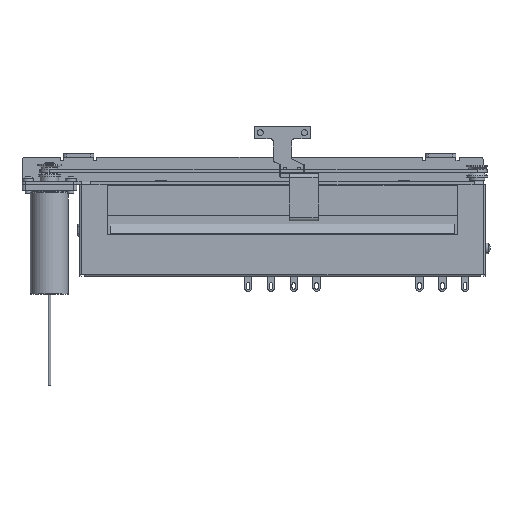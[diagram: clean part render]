
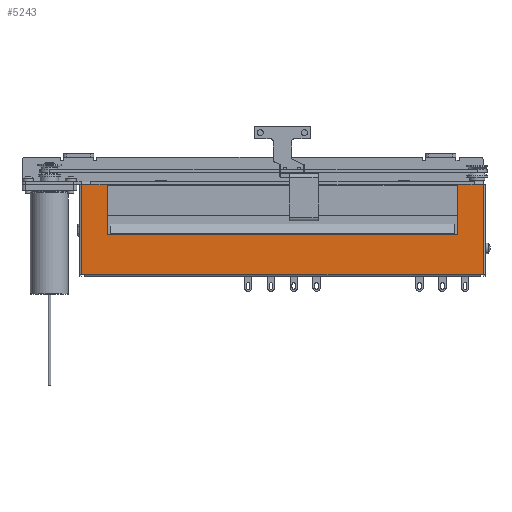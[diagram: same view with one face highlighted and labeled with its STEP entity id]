
A CAD part, front view. The second image highlights one B-rep face of the part: STEP entity #5243.
In plain terms, the highlighted planar face has unit normal (0, -1, 0).
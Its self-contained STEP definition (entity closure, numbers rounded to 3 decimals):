
#2670 = VERTEX_POINT('',#2671);
#2671 = CARTESIAN_POINT('',(57.5,-7.5,-10.));
#2677 = EDGE_CURVE('',#2670,#2678,#2680,.T.);
#2678 = VERTEX_POINT('',#2679);
#2679 = CARTESIAN_POINT('',(66.,-7.5,-10.));
#2680 = LINE('',#2681,#2682);
#2681 = CARTESIAN_POINT('',(-66.,-7.5,-10.));
#2682 = VECTOR('',#2683,1.);
#2683 = DIRECTION('',(1.,0.,0.));
#3475 = VERTEX_POINT('',#3476);
#3476 = CARTESIAN_POINT('',(-66.,-7.5,-10.));
#3485 = EDGE_CURVE('',#3475,#3486,#3488,.T.);
#3486 = VERTEX_POINT('',#3487);
#3487 = CARTESIAN_POINT('',(-57.5,-7.5,-10.));
#3488 = LINE('',#3489,#3490);
#3489 = CARTESIAN_POINT('',(-66.,-7.5,-10.));
#3490 = VECTOR('',#3491,1.);
#3491 = DIRECTION('',(1.,0.,0.));
#5224 = VERTEX_POINT('',#5225);
#5225 = CARTESIAN_POINT('',(57.5,-7.5,-26.6));
#5233 = EDGE_CURVE('',#5224,#2670,#5234,.T.);
#5234 = LINE('',#5235,#5236);
#5235 = CARTESIAN_POINT('',(57.5,-7.5,-33.1));
#5236 = VECTOR('',#5237,1.);
#5237 = DIRECTION('',(0.,0.,1.));
#5243 = ADVANCED_FACE('',(#5244),#5317,.T.);
#5244 = FACE_BOUND('',#5245,.T.);
#5245 = EDGE_LOOP('',(#5246,#5247,#5255,#5263,#5271,#5279,#5285,#5286,
    #5287,#5295,#5303,#5311));
#5246 = ORIENTED_EDGE('',*,*,#3485,.F.);
#5247 = ORIENTED_EDGE('',*,*,#5248,.F.);
#5248 = EDGE_CURVE('',#5249,#3475,#5251,.T.);
#5249 = VERTEX_POINT('',#5250);
#5250 = CARTESIAN_POINT('',(-66.,-7.5,-39.6));
#5251 = LINE('',#5252,#5253);
#5252 = CARTESIAN_POINT('',(-66.,-7.5,-39.6));
#5253 = VECTOR('',#5254,1.);
#5254 = DIRECTION('',(0.,0.,1.));
#5255 = ORIENTED_EDGE('',*,*,#5256,.T.);
#5256 = EDGE_CURVE('',#5249,#5257,#5259,.T.);
#5257 = VERTEX_POINT('',#5258);
#5258 = CARTESIAN_POINT('',(-65.,-7.5,-39.6));
#5259 = LINE('',#5260,#5261);
#5260 = CARTESIAN_POINT('',(-66.,-7.5,-39.6));
#5261 = VECTOR('',#5262,1.);
#5262 = DIRECTION('',(1.,0.,0.));
#5263 = ORIENTED_EDGE('',*,*,#5264,.T.);
#5264 = EDGE_CURVE('',#5257,#5265,#5267,.T.);
#5265 = VERTEX_POINT('',#5266);
#5266 = CARTESIAN_POINT('',(65.,-7.5,-39.6));
#5267 = LINE('',#5268,#5269);
#5268 = CARTESIAN_POINT('',(-65.,-7.5,-39.6));
#5269 = VECTOR('',#5270,1.);
#5270 = DIRECTION('',(1.,0.,0.));
#5271 = ORIENTED_EDGE('',*,*,#5272,.T.);
#5272 = EDGE_CURVE('',#5265,#5273,#5275,.T.);
#5273 = VERTEX_POINT('',#5274);
#5274 = CARTESIAN_POINT('',(66.,-7.5,-39.6));
#5275 = LINE('',#5276,#5277);
#5276 = CARTESIAN_POINT('',(-66.,-7.5,-39.6));
#5277 = VECTOR('',#5278,1.);
#5278 = DIRECTION('',(1.,0.,0.));
#5279 = ORIENTED_EDGE('',*,*,#5280,.T.);
#5280 = EDGE_CURVE('',#5273,#2678,#5281,.T.);
#5281 = LINE('',#5282,#5283);
#5282 = CARTESIAN_POINT('',(66.,-7.5,-39.6));
#5283 = VECTOR('',#5284,1.);
#5284 = DIRECTION('',(0.,0.,1.));
#5285 = ORIENTED_EDGE('',*,*,#2677,.F.);
#5286 = ORIENTED_EDGE('',*,*,#5233,.F.);
#5287 = ORIENTED_EDGE('',*,*,#5288,.T.);
#5288 = EDGE_CURVE('',#5224,#5289,#5291,.T.);
#5289 = VERTEX_POINT('',#5290);
#5290 = CARTESIAN_POINT('',(56.5,-7.5,-26.6));
#5291 = LINE('',#5292,#5293);
#5292 = CARTESIAN_POINT('',(-61.75,-7.5,-26.6));
#5293 = VECTOR('',#5294,1.);
#5294 = DIRECTION('',(-1.,-0.,0.));
#5295 = ORIENTED_EDGE('',*,*,#5296,.T.);
#5296 = EDGE_CURVE('',#5289,#5297,#5299,.T.);
#5297 = VERTEX_POINT('',#5298);
#5298 = CARTESIAN_POINT('',(-56.5,-7.5,-26.6));
#5299 = LINE('',#5300,#5301);
#5300 = CARTESIAN_POINT('',(56.5,-7.5,-26.6));
#5301 = VECTOR('',#5302,1.);
#5302 = DIRECTION('',(-1.,-0.,0.));
#5303 = ORIENTED_EDGE('',*,*,#5304,.T.);
#5304 = EDGE_CURVE('',#5297,#5305,#5307,.T.);
#5305 = VERTEX_POINT('',#5306);
#5306 = CARTESIAN_POINT('',(-57.5,-7.5,-26.6));
#5307 = LINE('',#5308,#5309);
#5308 = CARTESIAN_POINT('',(-61.75,-7.5,-26.6));
#5309 = VECTOR('',#5310,1.);
#5310 = DIRECTION('',(-1.,-0.,0.));
#5311 = ORIENTED_EDGE('',*,*,#5312,.T.);
#5312 = EDGE_CURVE('',#5305,#3486,#5313,.T.);
#5313 = LINE('',#5314,#5315);
#5314 = CARTESIAN_POINT('',(-57.5,-7.5,-33.1));
#5315 = VECTOR('',#5316,1.);
#5316 = DIRECTION('',(0.,0.,1.));
#5317 = PLANE('',#5318);
#5318 = AXIS2_PLACEMENT_3D('',#5319,#5320,#5321);
#5319 = CARTESIAN_POINT('',(-66.,-7.5,-39.6));
#5320 = DIRECTION('',(0.,-1.,0.));
#5321 = DIRECTION('',(1.,0.,0.));
